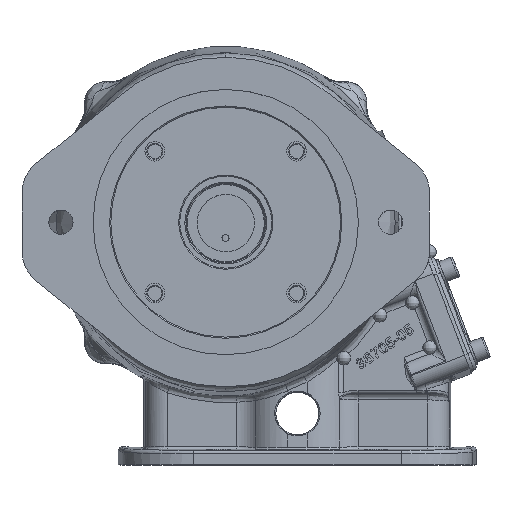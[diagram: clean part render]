
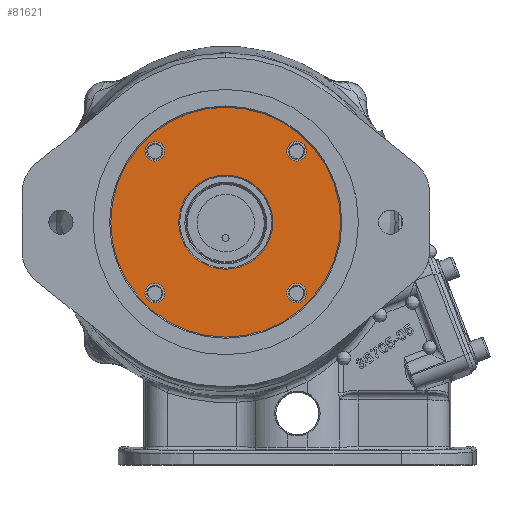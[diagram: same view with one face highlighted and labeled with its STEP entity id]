
A CAD part, top view. The second image highlights one B-rep face of the part: STEP entity #81621.
In plain terms, the highlighted planar face has unit normal (0, 0, 1).
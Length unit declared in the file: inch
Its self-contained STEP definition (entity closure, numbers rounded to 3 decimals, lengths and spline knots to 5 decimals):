
#66 = VERTEX_POINT ( 'NONE', #35839 ) ;
#122 = EDGE_CURVE ( 'NONE', #84863, #10439, #118107, .T. ) ;
#586 = CARTESIAN_POINT ( 'NONE',  ( 1.065, 1.237, 1.52 ) ) ;
#2831 = AXIS2_PLACEMENT_3D ( 'NONE', #27118, #17688, #16976 ) ;
#3603 = CARTESIAN_POINT ( 'NONE',  ( -1.065, -1.237, 1.52 ) ) ;
#4511 = EDGE_CURVE ( 'NONE', #10946, #105250, #54889, .T. ) ;
#6313 = EDGE_LOOP ( 'NONE', ( #33181, #127350 ) ) ;
#9608 = DIRECTION ( 'NONE',  ( 0., 0., -1. ) ) ;
#10417 = CARTESIAN_POINT ( 'NONE',  ( -1.237, -1.237, 1.52 ) ) ;
#10439 = VERTEX_POINT ( 'NONE', #59169 ) ;
#10946 = VERTEX_POINT ( 'NONE', #102371 ) ;
#15165 = EDGE_LOOP ( 'NONE', ( #59297, #66891 ) ) ;
#16976 = DIRECTION ( 'NONE',  ( 1., 0., 0. ) ) ;
#17688 = DIRECTION ( 'NONE',  ( 0., 0., 1. ) ) ;
#18081 = AXIS2_PLACEMENT_3D ( 'NONE', #43524, #9608, #130941 ) ;
#21481 = ORIENTED_EDGE ( 'NONE', *, *, #122, .F. ) ;
#23281 = CIRCLE ( 'NONE', #115537, 0.82084 ) ;
#24538 = VERTEX_POINT ( 'NONE', #92316 ) ;
#25120 = DIRECTION ( 'NONE',  ( 0., 0., -1. ) ) ;
#26347 = CARTESIAN_POINT ( 'NONE',  ( 1.237, -1.237, 1.52 ) ) ;
#27118 = CARTESIAN_POINT ( 'NONE',  ( 1.237, -1.237, 1.52 ) ) ;
#29414 = EDGE_CURVE ( 'NONE', #42465, #66, #37493, .T. ) ;
#31993 = FACE_BOUND ( 'NONE', #15165, .T. ) ;
#33091 = ORIENTED_EDGE ( 'NONE', *, *, #93475, .F. ) ;
#33181 = ORIENTED_EDGE ( 'NONE', *, *, #4511, .T. ) ;
#34626 = CARTESIAN_POINT ( 'NONE',  ( 1.065, -1.237, 1.52 ) ) ;
#35253 = DIRECTION ( 'NONE',  ( -1., 0., 0. ) ) ;
#35839 = CARTESIAN_POINT ( 'NONE',  ( 1.409, 1.237, 1.52 ) ) ;
#36731 = DIRECTION ( 'NONE',  ( 1., 0., 0. ) ) ;
#37493 = CIRCLE ( 'NONE', #113695, 0.172 ) ;
#38324 = EDGE_LOOP ( 'NONE', ( #33091, #21481 ) ) ;
#42465 = VERTEX_POINT ( 'NONE', #586 ) ;
#43361 = AXIS2_PLACEMENT_3D ( 'NONE', #131946, #77723, #74373 ) ;
#43524 = CARTESIAN_POINT ( 'NONE',  ( 2.006, 0., 1.52 ) ) ;
#44255 = FACE_BOUND ( 'NONE', #101240, .T. ) ;
#46113 = CIRCLE ( 'NONE', #96830, 2.006 ) ;
#46777 = CARTESIAN_POINT ( 'NONE',  ( 0., 0., 1.52 ) ) ;
#48733 = EDGE_CURVE ( 'NONE', #24538, #125917, #124545, .T. ) ;
#48921 = DIRECTION ( 'NONE',  ( 0., 0., 1. ) ) ;
#51144 = CIRCLE ( 'NONE', #71891, 0.172 ) ;
#52266 = DIRECTION ( 'NONE',  ( 0., 0., -1. ) ) ;
#54208 = CIRCLE ( 'NONE', #104975, 0.172 ) ;
#54744 = CARTESIAN_POINT ( 'NONE',  ( -2.006, 0., 1.52 ) ) ;
#54773 = AXIS2_PLACEMENT_3D ( 'NONE', #67146, #109809, #130763 ) ;
#54889 = CIRCLE ( 'NONE', #43361, 2.006 ) ;
#55380 = DIRECTION ( 'NONE',  ( 0., 0., 1. ) ) ;
#56602 = VERTEX_POINT ( 'NONE', #112070 ) ;
#57345 = EDGE_CURVE ( 'NONE', #125917, #24538, #23281, .T. ) ;
#57913 = ORIENTED_EDGE ( 'NONE', *, *, #134810, .F. ) ;
#59169 = CARTESIAN_POINT ( 'NONE',  ( 1.409, -1.237, 1.52 ) ) ;
#59234 = EDGE_CURVE ( 'NONE', #83220, #135981, #69627, .T. ) ;
#59297 = ORIENTED_EDGE ( 'NONE', *, *, #57345, .T. ) ;
#59619 = DIRECTION ( 'NONE',  ( 0., 0., 1. ) ) ;
#60369 = EDGE_CURVE ( 'NONE', #66, #42465, #51144, .T. ) ;
#63112 = DIRECTION ( 'NONE',  ( -1., 0., 0. ) ) ;
#66222 = CARTESIAN_POINT ( 'NONE',  ( -1.237, 1.237, 1.52 ) ) ;
#66616 = EDGE_LOOP ( 'NONE', ( #70418, #57913 ) ) ;
#66891 = ORIENTED_EDGE ( 'NONE', *, *, #48733, .T. ) ;
#67146 = CARTESIAN_POINT ( 'NONE',  ( -1.237, -1.237, 1.52 ) ) ;
#69058 = DIRECTION ( 'NONE',  ( 1., 0., 0. ) ) ;
#69627 = CIRCLE ( 'NONE', #87972, 0.172 ) ;
#69897 = DIRECTION ( 'NONE',  ( 1., 0., 0. ) ) ;
#70418 = ORIENTED_EDGE ( 'NONE', *, *, #115516, .F. ) ;
#71891 = AXIS2_PLACEMENT_3D ( 'NONE', #92314, #123416, #36731 ) ;
#74373 = DIRECTION ( 'NONE',  ( 1., 0., 0. ) ) ;
#77723 = DIRECTION ( 'NONE',  ( 0., 0., 1. ) ) ;
#78766 = EDGE_CURVE ( 'NONE', #135981, #83220, #103247, .T. ) ;
#81296 = CARTESIAN_POINT ( 'NONE',  ( 0.82084, 0., 1.52 ) ) ;
#81621 = ADVANCED_FACE ( 'NONE', ( #31993, #85443, #131671, #86873, #44255, #88309 ), #108572, .F. ) ;
#83220 = VERTEX_POINT ( 'NONE', #3603 ) ;
#84570 = ORIENTED_EDGE ( 'NONE', *, *, #60369, .F. ) ;
#84863 = VERTEX_POINT ( 'NONE', #34626 ) ;
#85246 = AXIS2_PLACEMENT_3D ( 'NONE', #46777, #25120, #35253 ) ;
#85443 = FACE_BOUND ( 'NONE', #66616, .T. ) ;
#85890 = AXIS2_PLACEMENT_3D ( 'NONE', #66222, #55380, #99457 ) ;
#86873 = FACE_OUTER_BOUND ( 'NONE', #6313, .T. ) ;
#87972 = AXIS2_PLACEMENT_3D ( 'NONE', #10417, #99954, #121630 ) ;
#88309 = FACE_BOUND ( 'NONE', #38324, .T. ) ;
#88340 = ORIENTED_EDGE ( 'NONE', *, *, #29414, .F. ) ;
#92314 = CARTESIAN_POINT ( 'NONE',  ( 1.237, 1.237, 1.52 ) ) ;
#92316 = CARTESIAN_POINT ( 'NONE',  ( -0.82084, 0., 1.52 ) ) ;
#93362 = DIRECTION ( 'NONE',  ( 0., 0., 1. ) ) ;
#93475 = EDGE_CURVE ( 'NONE', #10439, #84863, #122409, .T. ) ;
#95493 = CARTESIAN_POINT ( 'NONE',  ( 0., 0., 1.52 ) ) ;
#96186 = DIRECTION ( 'NONE',  ( 1., 0., 0. ) ) ;
#96830 = AXIS2_PLACEMENT_3D ( 'NONE', #95493, #93362, #96186 ) ;
#99457 = DIRECTION ( 'NONE',  ( 1., 0., 0. ) ) ;
#99954 = DIRECTION ( 'NONE',  ( 0., 0., 1. ) ) ;
#101240 = EDGE_LOOP ( 'NONE', ( #84570, #88340 ) ) ;
#102371 = CARTESIAN_POINT ( 'NONE',  ( 2.006, 0., 1.52 ) ) ;
#103247 = CIRCLE ( 'NONE', #54773, 0.172 ) ;
#104975 = AXIS2_PLACEMENT_3D ( 'NONE', #124083, #48921, #69897 ) ;
#105250 = VERTEX_POINT ( 'NONE', #54744 ) ;
#108572 = PLANE ( 'NONE',  #18081 ) ;
#109809 = DIRECTION ( 'NONE',  ( 0., 0., 1. ) ) ;
#110035 = ORIENTED_EDGE ( 'NONE', *, *, #59234, .F. ) ;
#112070 = CARTESIAN_POINT ( 'NONE',  ( -1.409, 1.237, 1.52 ) ) ;
#112465 = CARTESIAN_POINT ( 'NONE',  ( -1.065, 1.237, 1.52 ) ) ;
#113695 = AXIS2_PLACEMENT_3D ( 'NONE', #123962, #59619, #69058 ) ;
#115516 = EDGE_CURVE ( 'NONE', #139260, #56602, #54208, .T. ) ;
#115537 = AXIS2_PLACEMENT_3D ( 'NONE', #128860, #52266, #63112 ) ;
#115863 = DIRECTION ( 'NONE',  ( 0., 0., 1. ) ) ;
#115901 = CIRCLE ( 'NONE', #85890, 0.172 ) ;
#118107 = CIRCLE ( 'NONE', #2831, 0.172 ) ;
#120742 = EDGE_CURVE ( 'NONE', #105250, #10946, #46113, .T. ) ;
#121630 = DIRECTION ( 'NONE',  ( 1., 0., 0. ) ) ;
#122409 = CIRCLE ( 'NONE', #127034, 0.172 ) ;
#123416 = DIRECTION ( 'NONE',  ( 0., 0., 1. ) ) ;
#123962 = CARTESIAN_POINT ( 'NONE',  ( 1.237, 1.237, 1.52 ) ) ;
#124083 = CARTESIAN_POINT ( 'NONE',  ( -1.237, 1.237, 1.52 ) ) ;
#124545 = CIRCLE ( 'NONE', #85246, 0.82084 ) ;
#125917 = VERTEX_POINT ( 'NONE', #81296 ) ;
#126842 = EDGE_LOOP ( 'NONE', ( #110035, #139785 ) ) ;
#127034 = AXIS2_PLACEMENT_3D ( 'NONE', #26347, #115863, #138958 ) ;
#127350 = ORIENTED_EDGE ( 'NONE', *, *, #120742, .T. ) ;
#128860 = CARTESIAN_POINT ( 'NONE',  ( 0., 0., 1.52 ) ) ;
#130763 = DIRECTION ( 'NONE',  ( 1., 0., 0. ) ) ;
#130941 = DIRECTION ( 'NONE',  ( -1., 0., 0. ) ) ;
#131671 = FACE_BOUND ( 'NONE', #126842, .T. ) ;
#131946 = CARTESIAN_POINT ( 'NONE',  ( 0., 0., 1.52 ) ) ;
#134810 = EDGE_CURVE ( 'NONE', #56602, #139260, #115901, .T. ) ;
#135981 = VERTEX_POINT ( 'NONE', #136991 ) ;
#136991 = CARTESIAN_POINT ( 'NONE',  ( -1.409, -1.237, 1.52 ) ) ;
#138958 = DIRECTION ( 'NONE',  ( 1., 0., 0. ) ) ;
#139260 = VERTEX_POINT ( 'NONE', #112465 ) ;
#139785 = ORIENTED_EDGE ( 'NONE', *, *, #78766, .F. ) ;
